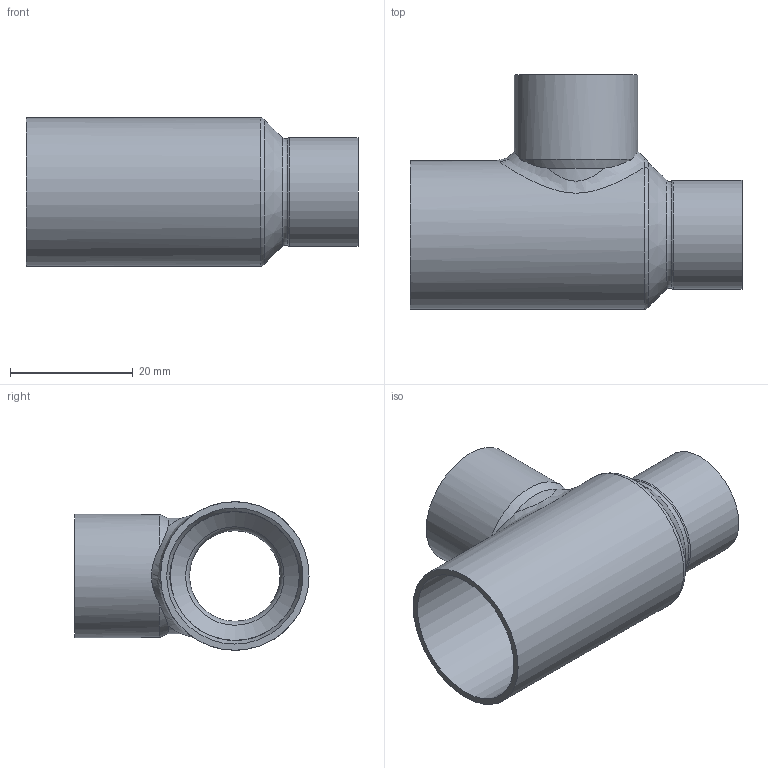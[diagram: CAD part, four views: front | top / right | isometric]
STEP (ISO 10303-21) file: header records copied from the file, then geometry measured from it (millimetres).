
FILE_DESCRIPTION(/* description */ (''),/* implementation_level */ '2;1');
FILE_NAME(/* name */ 'G:\Technik\Management\ontwikkeling\Ontwikkeling + Leveringsdokumenten + proefberichten\Sanha Ternat\Ternat 2024\Step files\5130221815_3d gem.stp',/* time_stamp */ '2024-02-29T09:12:29+01:00',/* author */ ('vdvijverd'),/* organization */ (''),/* preprocessor_version */ 'ST-DEVELOPER v19',/* originating_system */ 'Autodesk Inventor 2023',/* authorisation */ '');
FILE_SCHEMA (('AUTOMOTIVE_DESIGN { 1 0 10303 214 3 1 1 }'));
Length unit declared in the file: millimetre
Products named in the file (1): 5130221815_3d gem
Bounding box: 54 x 38.08 x 24.15 mm (x, y, z)
Volume: 5363 mm3; surface area: 8931.9 mm2
Topology: 1 solids, 1 shells, 30 faces, 80 edges, 51 vertices
Faces by surface type: cylinder 11, torus 7, cone 6, bspline 3, plane 3
Full cylindrical faces by diameter (mm): 15.12 x1, 17.7 x1, 18.1 x1, 20.1 x1, 21 x1, 22.15 x1, 24.15 x1
Entity records: 1561 total; most frequent: CARTESIAN_POINT 779, ORIENTED_EDGE 160, DIRECTION 155, EDGE_CURVE 80, AXIS2_PLACEMENT_3D 72, VERTEX_POINT 51, CIRCLE 44, EDGE_LOOP 33
